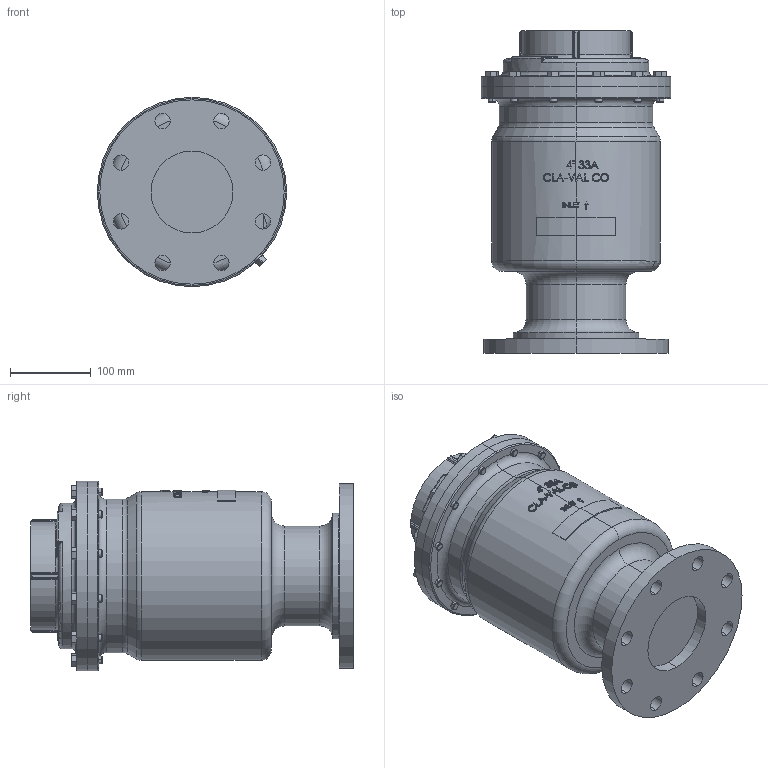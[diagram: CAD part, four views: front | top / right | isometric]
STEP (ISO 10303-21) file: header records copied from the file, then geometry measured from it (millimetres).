
FILE_DESCRIPTION (( 'STEP AP203' ), '1' );
FILE_NAME ('4in 33A Flat Face.STEP', '2017-06-27T19:28:51', ( '' ), ( '' ), 'SwSTEP 2.0', 'SolidWorks 2017', '' );
FILE_SCHEMA (( 'CONFIG_CONTROL_DESIGN' ));
Length unit declared in the file: inch
Products named in the file (5): 4in 33A Flat Face; 207174 4in BODY FLANGED 150A 33A_NAB; 203641 4in COVER 33A_NICKEL ALUM BRONZE; Bolt .375-16 UNC  (67605)_1.25   67605-07B; .250 NPT SQ HD PIPE PLUG (67660)_STEEL CAD PL
Assembly tree (15 placements, depth 2):
  4in 33A Flat Face
    207174 4in BODY FLANGED 150A 33A_NAB
    203641 4in COVER 33A_NICKEL ALUM BRONZE
    Bolt .375-16 UNC  (67605)_1.25   67605-07B  x12
    .250 NPT SQ HD PIPE PLUG (67660)_STEEL CAD PL
Bounding box: 234.95 x 400.05 x 234.95 mm (x, y, z)
Volume: 10887761.1 mm3; surface area: 501173.9 mm2
Topology: 15 solids, 15 shells, 1021 faces, 2487 edges, 1529 vertices
Faces by surface type: plane 342, cylinder 265, bspline 226, cone 153, torus 29, sphere 6
Entity records: 46263 total; most frequent: CARTESIAN_POINT 27647, ORIENTED_EDGE 4062, DIRECTION 3154, EDGE_CURVE 2031, VERTEX_POINT 1265, AXIS2_PLACEMENT_3D 1229, EDGE_LOOP 914, ADVANCED_FACE 812
